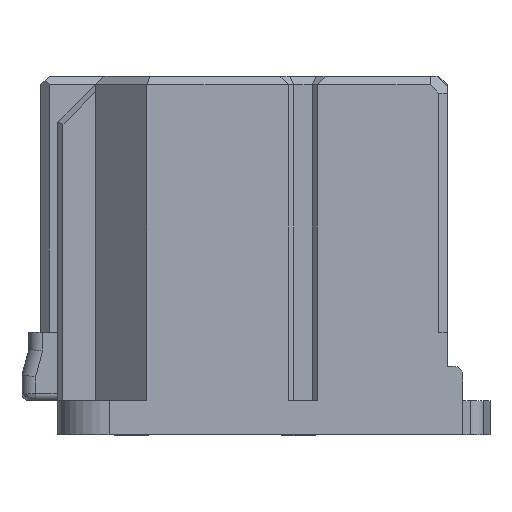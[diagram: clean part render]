
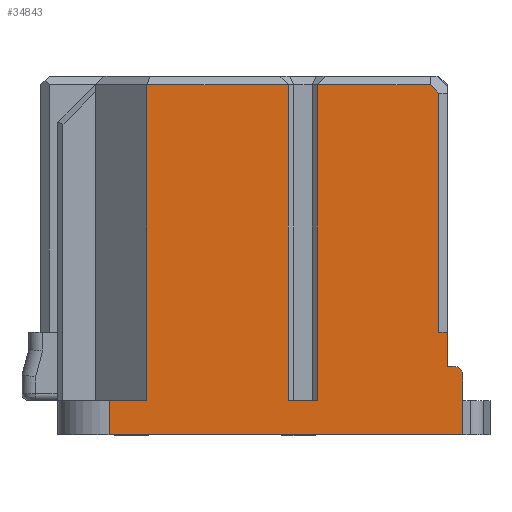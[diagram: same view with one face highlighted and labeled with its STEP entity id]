
A CAD part, left-side view. The second image highlights one B-rep face of the part: STEP entity #34843.
In plain terms, the highlighted planar face has unit normal (-1, 0, 0).
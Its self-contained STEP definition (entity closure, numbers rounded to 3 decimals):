
#73=DIRECTION('',(0.,0.,-1.));
#74=VECTOR('',#73,2.);
#75=CARTESIAN_POINT('',(-16.4,-10.3,-15.));
#76=LINE('',#75,#74);
#81=DIRECTION('',(0.,-1.,0.));
#82=VECTOR('',#81,0.4);
#83=CARTESIAN_POINT('',(-16.4,-10.3,-17.));
#84=LINE('',#83,#82);
#88=CARTESIAN_POINT('',(-16.4,-10.7,-17.5));
#89=DIRECTION('',(1.,0.,0.));
#90=DIRECTION('',(0.,0.,1.));
#91=AXIS2_PLACEMENT_3D('',#88,#89,#90);
#96=DIRECTION('',(0.,0.,-1.));
#97=VECTOR('',#96,3.5);
#98=CARTESIAN_POINT('',(-16.4,-11.2,-17.5));
#99=LINE('',#98,#97);
#103=DIRECTION('',(0.,1.,0.));
#104=VECTOR('',#103,20.7);
#105=CARTESIAN_POINT('',(-16.4,-11.2,-21.));
#106=LINE('',#105,#104);
#110=DIRECTION('',(0.,0.,-1.));
#111=VECTOR('',#110,2.);
#112=CARTESIAN_POINT('',(-16.4,9.5,-19.));
#113=LINE('',#112,#111);
#117=DIRECTION('',(0.,0.,-1.));
#118=VECTOR('',#117,18.5);
#119=CARTESIAN_POINT('',(-16.4,7.3,-0.5));
#120=LINE('',#119,#118);
#124=DIRECTION('',(0.,1.,0.));
#125=VECTOR('',#124,8.3);
#126=CARTESIAN_POINT('',(-16.4,-1.,-0.5));
#127=LINE('',#126,#125);
#131=DIRECTION('',(0.,0.,-1.));
#132=VECTOR('',#131,18.5);
#133=CARTESIAN_POINT('',(-16.4,-1.,-0.5));
#134=LINE('',#133,#132);
#138=DIRECTION('',(0.,-1.,0.));
#139=VECTOR('',#138,1.7);
#140=CARTESIAN_POINT('',(-16.4,-1.,-19.));
#141=LINE('',#140,#139);
#145=DIRECTION('',(0.,0.,-1.));
#146=VECTOR('',#145,18.5);
#147=CARTESIAN_POINT('',(-16.4,-2.7,-0.5));
#148=LINE('',#147,#146);
#152=DIRECTION('',(0.,1.,0.));
#153=VECTOR('',#152,6.6);
#154=CARTESIAN_POINT('',(-16.4,-9.3,-0.5));
#155=LINE('',#154,#153);
#159=DIRECTION('',(0.,-0.707,-0.707));
#160=VECTOR('',#159,0.707);
#161=CARTESIAN_POINT('',(-16.4,-9.3,-0.5));
#162=LINE('',#161,#160);
#166=DIRECTION('',(0.,0.,-1.));
#167=VECTOR('',#166,14.);
#168=CARTESIAN_POINT('',(-16.4,-9.8,-1.));
#169=LINE('',#168,#167);
#173=DIRECTION('',(0.,-1.,0.));
#174=VECTOR('',#173,0.5);
#175=CARTESIAN_POINT('',(-16.4,-9.8,-15.));
#176=LINE('',#175,#174);
#12905=DIRECTION('',(0.,1.,0.));
#12906=VECTOR('',#12905,2.2);
#12907=CARTESIAN_POINT('',(-16.4,7.3,-19.));
#12908=LINE('',#12907,#12906);
#29356=CARTESIAN_POINT('',(-16.4,-10.3,-17.));
#29357=CARTESIAN_POINT('',(-16.4,-10.7,-17.));
#29358=VERTEX_POINT('',#29356);
#29359=VERTEX_POINT('',#29357);
#29360=CARTESIAN_POINT('',(-16.4,-11.2,-17.5));
#29361=VERTEX_POINT('',#29360);
#29362=CARTESIAN_POINT('',(-16.4,-11.2,-21.));
#29363=VERTEX_POINT('',#29362);
#33260=CARTESIAN_POINT('',(-16.4,-1.,-19.));
#33261=CARTESIAN_POINT('',(-16.4,-2.7,-19.));
#33262=VERTEX_POINT('',#33260);
#33263=VERTEX_POINT('',#33261);
#33288=CARTESIAN_POINT('',(-16.4,9.5,-21.));
#33289=VERTEX_POINT('',#33288);
#33316=CARTESIAN_POINT('',(-16.4,7.3,-19.));
#33317=VERTEX_POINT('',#33316);
#33364=CARTESIAN_POINT('',(-16.4,-9.3,-0.5));
#33365=CARTESIAN_POINT('',(-16.4,-2.7,-0.5));
#33366=VERTEX_POINT('',#33364);
#33367=VERTEX_POINT('',#33365);
#33372=CARTESIAN_POINT('',(-16.4,-1.,-0.5));
#33373=CARTESIAN_POINT('',(-16.4,7.3,-0.5));
#33374=VERTEX_POINT('',#33372);
#33375=VERTEX_POINT('',#33373);
#33559=CARTESIAN_POINT('',(-16.4,9.5,-19.));
#33561=VERTEX_POINT('',#33559);
#34781=CARTESIAN_POINT('',(-16.4,-9.8,-1.));
#34783=VERTEX_POINT('',#34781);
#34786=CARTESIAN_POINT('',(-16.4,-10.3,-15.));
#34787=VERTEX_POINT('',#34786);
#34788=CARTESIAN_POINT('',(-16.4,-9.8,-15.));
#34789=VERTEX_POINT('',#34788);
#34804=CARTESIAN_POINT('',(-16.4,0.,0.));
#34805=DIRECTION('',(1.,0.,0.));
#34806=DIRECTION('',(0.,0.,-1.));
#34807=AXIS2_PLACEMENT_3D('',#34804,#34805,#34806);
#34808=PLANE('',#34807);
#34810=ORIENTED_EDGE('',*,*,#34809,.T.);
#34812=ORIENTED_EDGE('',*,*,#34811,.T.);
#34814=ORIENTED_EDGE('',*,*,#34813,.T.);
#34816=ORIENTED_EDGE('',*,*,#34815,.T.);
#34818=ORIENTED_EDGE('',*,*,#34817,.T.);
#34820=ORIENTED_EDGE('',*,*,#34819,.F.);
#34822=ORIENTED_EDGE('',*,*,#34821,.F.);
#34824=ORIENTED_EDGE('',*,*,#34823,.F.);
#34826=ORIENTED_EDGE('',*,*,#34825,.F.);
#34828=ORIENTED_EDGE('',*,*,#34827,.T.);
#34830=ORIENTED_EDGE('',*,*,#34829,.T.);
#34832=ORIENTED_EDGE('',*,*,#34831,.F.);
#34834=ORIENTED_EDGE('',*,*,#34833,.F.);
#34836=ORIENTED_EDGE('',*,*,#34835,.T.);
#34838=ORIENTED_EDGE('',*,*,#34837,.T.);
#34840=ORIENTED_EDGE('',*,*,#34839,.T.);
#34841=EDGE_LOOP('',(#34810,#34812,#34814,#34816,#34818,#34820,#34822,#34824,
#34826,#34828,#34830,#34832,#34834,#34836,#34838,#34840));
#34842=FACE_OUTER_BOUND('',#34841,.F.);
#34843=ADVANCED_FACE('',(#34842),#34808,.F.);
#92=CIRCLE('',#91,0.5);
#34809=EDGE_CURVE('',#34787,#29358,#76,.T.);
#34811=EDGE_CURVE('',#29358,#29359,#84,.T.);
#34813=EDGE_CURVE('',#29359,#29361,#92,.T.);
#34815=EDGE_CURVE('',#29361,#29363,#99,.T.);
#34817=EDGE_CURVE('',#29363,#33289,#106,.T.);
#34819=EDGE_CURVE('',#33561,#33289,#113,.T.);
#34821=EDGE_CURVE('',#33317,#33561,#12908,.T.);
#34823=EDGE_CURVE('',#33375,#33317,#120,.T.);
#34825=EDGE_CURVE('',#33374,#33375,#127,.T.);
#34827=EDGE_CURVE('',#33374,#33262,#134,.T.);
#34829=EDGE_CURVE('',#33262,#33263,#141,.T.);
#34831=EDGE_CURVE('',#33367,#33263,#148,.T.);
#34833=EDGE_CURVE('',#33366,#33367,#155,.T.);
#34835=EDGE_CURVE('',#33366,#34783,#162,.T.);
#34837=EDGE_CURVE('',#34783,#34789,#169,.T.);
#34839=EDGE_CURVE('',#34789,#34787,#176,.T.);
